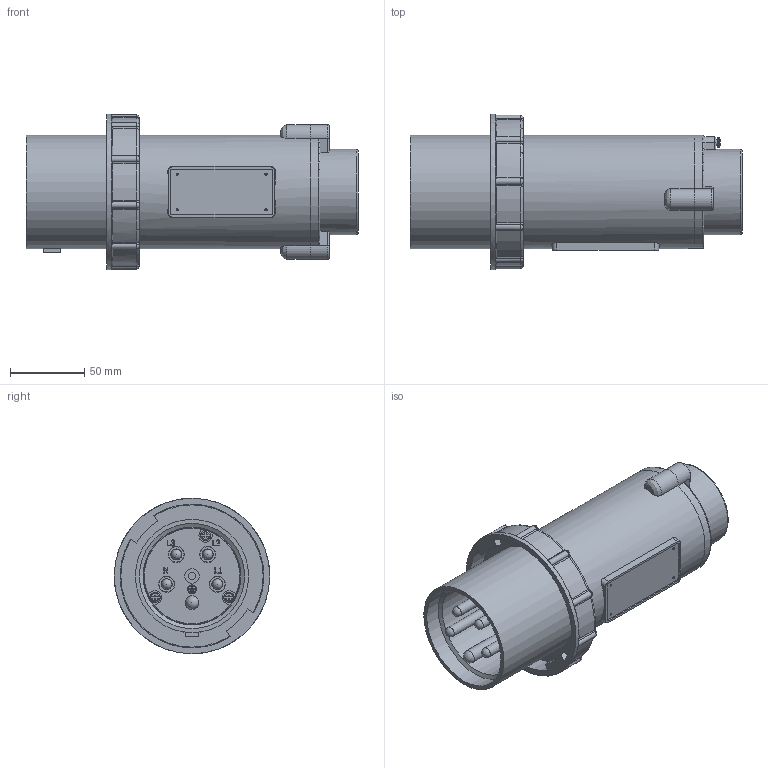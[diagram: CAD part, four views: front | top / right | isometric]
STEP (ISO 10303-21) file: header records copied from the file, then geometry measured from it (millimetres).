
FILE_DESCRIPTION((''),'2;1');
FILE_NAME('C:\Users\Ivan\Desktop\Модели к ТЗ\ВГС-63-415-3.stp','2019-05-28T09:15:17',('A.G.Petrov'),(''),'Autodesk Inventor 2012','Autodesk Inventor 2012','');
FILE_SCHEMA(('AUTOMOTIVE_DESIGN { 1 0 10303 214 1 1 1 1 }'));
Length unit declared in the file: millimetre
Products named in the file (1): ВГС-63-415-3
Bounding box: 224.1 x 105 x 105 mm (x, y, z)
Surface area: 153195.6 mm2 (no closed solid volume)
Topology: 0 solids, 55 shells, 289 faces, 1220 edges, 963 vertices
Faces by surface type: plane 108, cylinder 87, torus 52, cone 19, bspline 18, sphere 5
Full cylindrical faces by diameter (mm): 1.5 x4, 3.9 x1, 6.9 x4, 8.9 x1, 9.3 x2, 10.4 x4, 43.3 x1, 57.6 x1, 66 x1, 71 x1, 76.5 x2, 97 x1, 105 x1
Entity records: 14368 total; most frequent: CARTESIAN_POINT 4344, DIRECTION 1863, ORIENTED_EDGE 1670, EDGE_CURVE 1149, VERTEX_POINT 937, AXIS2_PLACEMENT_3D 666, VECTOR 531, LINE 531
